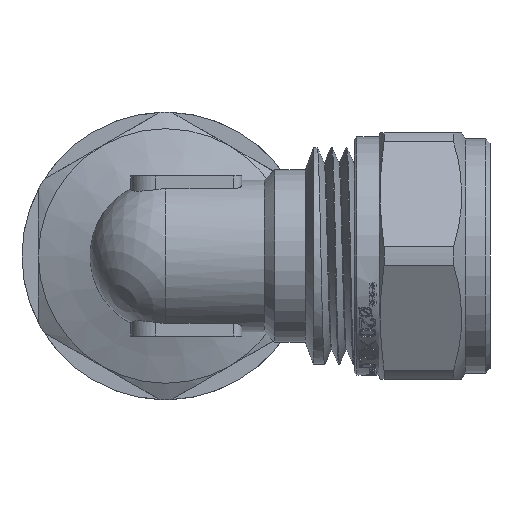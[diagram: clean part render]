
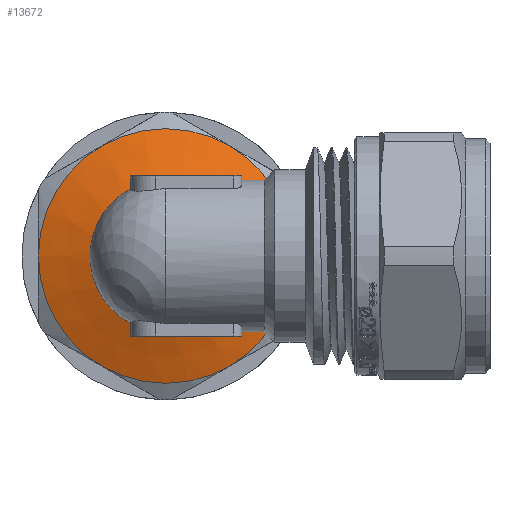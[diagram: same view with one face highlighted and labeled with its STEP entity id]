
A CAD part, front view. The second image highlights one B-rep face of the part: STEP entity #13672.
In plain terms, the highlighted conical face has half-angle 70 degrees and reference radius 12.361 mm.
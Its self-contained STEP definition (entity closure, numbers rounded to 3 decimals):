
#103=(
BOUNDED_CURVE()
B_SPLINE_CURVE(2,(#18912,#18913,#18914),.UNSPECIFIED.,.F.,.F.)
B_SPLINE_CURVE_WITH_KNOTS((3,3),(0.,0.198),.UNSPECIFIED.)
CURVE()
GEOMETRIC_REPRESENTATION_ITEM()
RATIONAL_B_SPLINE_CURVE((1.,1.005,1.))
REPRESENTATION_ITEM('')
);
#104=(
BOUNDED_CURVE()
B_SPLINE_CURVE(2,(#19121,#19122,#19123),.UNSPECIFIED.,.F.,.F.)
B_SPLINE_CURVE_WITH_KNOTS((3,3),(0.125,0.25),
 .UNSPECIFIED.)
CURVE()
GEOMETRIC_REPRESENTATION_ITEM()
RATIONAL_B_SPLINE_CURVE((1.004,1.004,1.))
REPRESENTATION_ITEM('')
);
#105=(
BOUNDED_CURVE()
B_SPLINE_CURVE(2,(#19125,#19126,#19127),.UNSPECIFIED.,.F.,.F.)
B_SPLINE_CURVE_WITH_KNOTS((3,3),(0.,0.125),.UNSPECIFIED.)
CURVE()
GEOMETRIC_REPRESENTATION_ITEM()
RATIONAL_B_SPLINE_CURVE((1.,1.004,1.004))
REPRESENTATION_ITEM('')
);
#106=(
BOUNDED_CURVE()
B_SPLINE_CURVE(2,(#19133,#19134,#19135),.UNSPECIFIED.,.F.,.F.)
B_SPLINE_CURVE_WITH_KNOTS((3,3),(0.,0.198),.UNSPECIFIED.)
CURVE()
GEOMETRIC_REPRESENTATION_ITEM()
RATIONAL_B_SPLINE_CURVE((1.,1.005,1.))
REPRESENTATION_ITEM('')
);
#761=CONICAL_SURFACE('',#14498,12.361,1.222);
#817=FACE_OUTER_BOUND('',#1595,.T.);
#1595=EDGE_LOOP('',(#9332,#9333,#9334,#9335,#9336,#9337,#9338,#9339,#9340));
#2414=CIRCLE('',#14478,9.222);
#2425=CIRCLE('',#14499,15.5);
#2426=CIRCLE('',#14500,15.5);
#3604=LINE('',#19141,#4588);
#4588=VECTOR('',#15371,12.361);
#5598=VERTEX_POINT('',#18909);
#5599=VERTEX_POINT('',#18911);
#5615=VERTEX_POINT('',#18993);
#5630=VERTEX_POINT('',#19120);
#5631=VERTEX_POINT('',#19124);
#5633=VERTEX_POINT('',#19137);
#5634=VERTEX_POINT('',#19138);
#7078=EDGE_CURVE('',#5599,#5598,#103,.T.);
#7096=EDGE_CURVE('',#5598,#5615,#2414,.T.);
#7117=EDGE_CURVE('',#5630,#5599,#104,.T.);
#7118=EDGE_CURVE('',#5631,#5630,#105,.T.);
#7122=EDGE_CURVE('',#5615,#5631,#106,.T.);
#7123=EDGE_CURVE('',#5633,#5634,#2425,.T.);
#7124=EDGE_CURVE('',#5634,#5633,#2426,.T.);
#7125=EDGE_CURVE('',#5634,#5630,#3604,.T.);
#9332=ORIENTED_EDGE('',*,*,#7123,.F.);
#9333=ORIENTED_EDGE('',*,*,#7124,.F.);
#9334=ORIENTED_EDGE('',*,*,#7125,.T.);
#9335=ORIENTED_EDGE('',*,*,#7117,.T.);
#9336=ORIENTED_EDGE('',*,*,#7078,.T.);
#9337=ORIENTED_EDGE('',*,*,#7096,.T.);
#9338=ORIENTED_EDGE('',*,*,#7122,.T.);
#9339=ORIENTED_EDGE('',*,*,#7118,.T.);
#9340=ORIENTED_EDGE('',*,*,#7125,.F.);
#13672=ADVANCED_FACE('',(#817),#761,.T.);
#14478=AXIS2_PLACEMENT_3D('',#18995,#15319,#15320);
#14498=AXIS2_PLACEMENT_3D('',#19136,#15365,#15366);
#14499=AXIS2_PLACEMENT_3D('',#19139,#15367,#15368);
#14500=AXIS2_PLACEMENT_3D('',#19140,#15369,#15370);
#15319=DIRECTION('center_axis',(0.,1.,0.));
#15320=DIRECTION('ref_axis',(1.,0.,0.));
#15365=DIRECTION('center_axis',(0.,1.,0.));
#15366=DIRECTION('ref_axis',(-1.,0.,0.));
#15367=DIRECTION('center_axis',(0.,1.,0.));
#15368=DIRECTION('ref_axis',(1.,0.,0.));
#15369=DIRECTION('center_axis',(0.,1.,0.));
#15370=DIRECTION('ref_axis',(1.,0.,0.));
#15371=DIRECTION('',(-0.94,-0.342,0.));
#18909=CARTESIAN_POINT('',(8.919,10.715,-2.343));
#18911=CARTESIAN_POINT('',(10.5,11.207,-1.25));
#18912=CARTESIAN_POINT('Ctrl Pts',(10.5,11.207,-1.25));
#18913=CARTESIAN_POINT('Ctrl Pts',(9.656,10.927,-1.834));
#18914=CARTESIAN_POINT('Ctrl Pts',(8.919,10.715,-2.343));
#18993=CARTESIAN_POINT('',(8.919,10.715,2.343));
#18995=CARTESIAN_POINT('Origin',(0.,10.715,0.));
#19120=CARTESIAN_POINT('',(10.5,11.18,0.));
#19121=CARTESIAN_POINT('Ctrl Pts',(10.5,11.18,0.));
#19122=CARTESIAN_POINT('Ctrl Pts',(10.5,11.18,-0.623));
#19123=CARTESIAN_POINT('Ctrl Pts',(10.5,11.207,-1.25));
#19124=CARTESIAN_POINT('',(10.5,11.207,1.25));
#19125=CARTESIAN_POINT('Ctrl Pts',(10.5,11.207,1.25));
#19126=CARTESIAN_POINT('Ctrl Pts',(10.5,11.18,0.623));
#19127=CARTESIAN_POINT('Ctrl Pts',(10.5,11.18,0.));
#19133=CARTESIAN_POINT('Ctrl Pts',(8.919,10.715,2.343));
#19134=CARTESIAN_POINT('Ctrl Pts',(9.656,10.927,1.834));
#19135=CARTESIAN_POINT('Ctrl Pts',(10.5,11.207,1.25));
#19136=CARTESIAN_POINT('Origin',(0.,11.857,
0.));
#19137=CARTESIAN_POINT('',(-15.5,13.,0.));
#19138=CARTESIAN_POINT('',(15.5,13.,0.));
#19139=CARTESIAN_POINT('Origin',(0.,13.,
0.));
#19140=CARTESIAN_POINT('Origin',(0.,13.,
0.));
#19141=CARTESIAN_POINT('',(12.361,11.857,0.));
